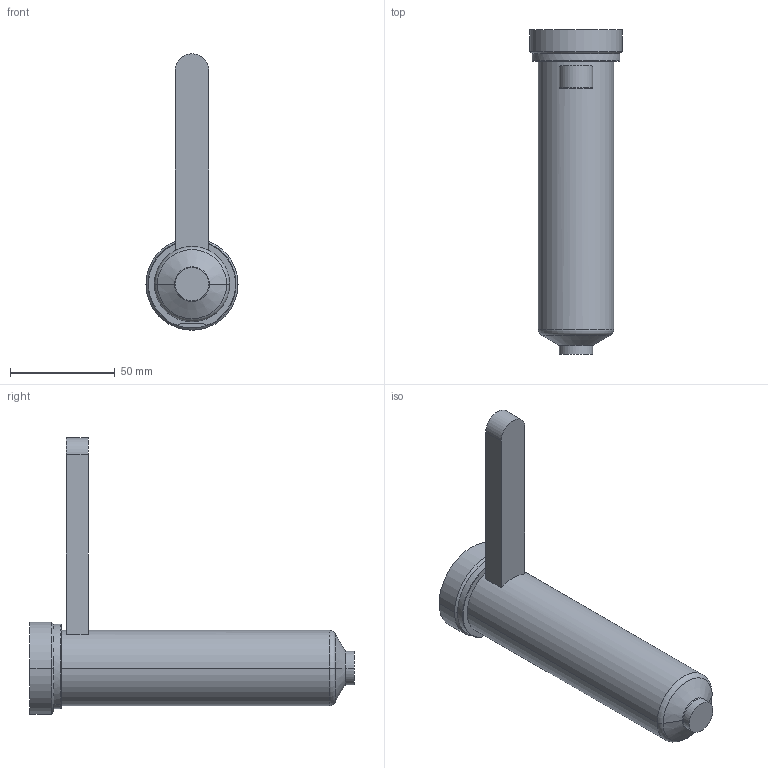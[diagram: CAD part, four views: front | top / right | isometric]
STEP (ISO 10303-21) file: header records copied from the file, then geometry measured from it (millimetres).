
FILE_DESCRIPTION((''),'2;1');
FILE_NAME('EO12_PG-FB_WR_140_COT','2024-02-19T11:39:40',('sundharh'),(''),'CREO PARAMETRIC BY PTC INC, 2023154','CREO PARAMETRIC BY PTC INC, 2023154','');
FILE_SCHEMA(('CONFIG_CONTROL_DESIGN'));
Length unit declared in the file: millimetre
Products named in the file (1): EO12_PG-FB_WR_140_COT
Bounding box: 44 x 155 x 132 mm (x, y, z)
Volume: 173749.3 mm3; surface area: 24797.1 mm2
Topology: 1 solids, 1 shells, 31 faces, 67 edges, 40 vertices
Faces by surface type: cylinder 11, plane 9, torus 7, cone 4
Entity records: 951 total; most frequent: CARTESIAN_POINT 218, DIRECTION 159, ORIENTED_EDGE 134, AXIS2_PLACEMENT_3D 67, EDGE_CURVE 67, VERTEX_POINT 40, CIRCLE 36, EDGE_LOOP 33
